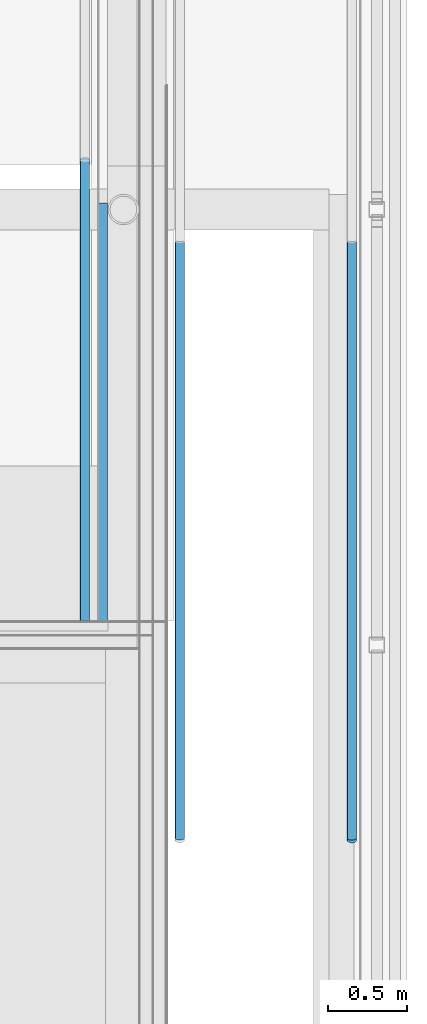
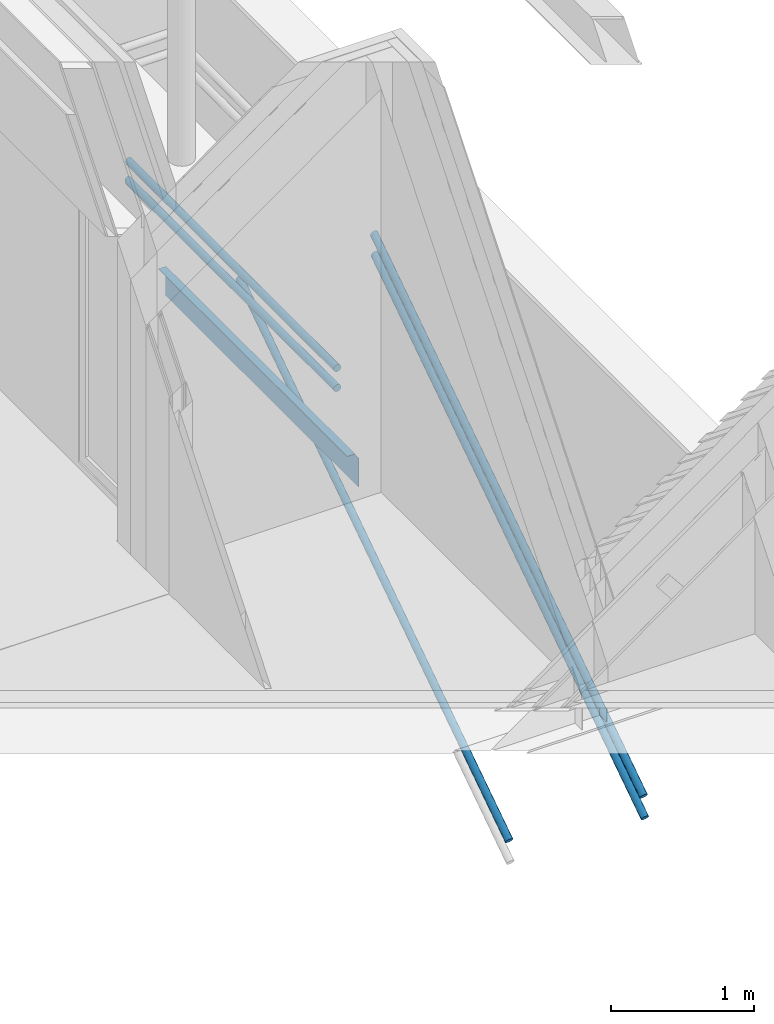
# One storey, part 24 of 137: 5 members, 1 beam, 2 elements without a shape of their own.
"""IFC2X3 building model written with IfcOpenShell, lengths in millimetres."""

from ifc_helpers import new_model, entity, si_unit, converted_unit, derived_unit, money_unit, direction, frame, origin_with_axes, place, context, subcontext, project, spatial, faceted_brep, material, type_object, element, aggregate, save


model = new_model("IFC2X3")

# Units and contexts
model_context = context("Model", 3, precision=0.01, world=origin_with_axes(), true_north=direction((0.0, 1.0)))
body_context = subcontext(model_context, "Body", "Model", "MODEL_VIEW")
ifc_project = project(units=[si_unit("LENGTHUNIT", "METRE", prefix="MILLI"), si_unit("AREAUNIT", "SQUARE_METRE"), si_unit("VOLUMEUNIT", "CUBIC_METRE"), converted_unit("PLANEANGLEUNIT", "DEGREE", entity("IfcPlaneAngleMeasure", 0.0174532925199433), si_unit("PLANEANGLEUNIT", "RADIAN"), dimensions=[0, 0, 0, 0, 0, 0, 0]), money_unit("EUR"), converted_unit("TIMEUNIT", "Year", entity("IfcTimeMeasure", 31556926.0), si_unit("TIMEUNIT", "SECOND"), dimensions=[0, 0, 1, 0, 0, 0, 0]), si_unit("MASSUNIT", "GRAM", prefix="KILO"), si_unit("THERMODYNAMICTEMPERATUREUNIT", "DEGREE_CELSIUS"), si_unit("LUMINOUSINTENSITYUNIT", "LUMEN"), si_unit("ENERGYUNIT", "JOULE", prefix="MEGA"), derived_unit("THERMALCONDUCTANCEUNIT", [(si_unit("POWERUNIT", "WATT"), 1), (si_unit("LENGTHUNIT", "METRE"), -1), (si_unit("THERMODYNAMICTEMPERATUREUNIT", "KELVIN"), -1)]), derived_unit("SPECIFICHEATCAPACITYUNIT", [(si_unit("ENERGYUNIT", "JOULE"), 1), (si_unit("MASSUNIT", "GRAM", prefix="KILO"), -1), (si_unit("THERMODYNAMICTEMPERATUREUNIT", "KELVIN"), -1)]), derived_unit("MASSDENSITYUNIT", [(si_unit("MASSUNIT", "GRAM", prefix="KILO"), 1), (si_unit("VOLUMEUNIT", "CUBIC_METRE"), -1)])], contexts=[model_context])

# Site, building, storey
site_placement = place(None, origin_with_axes())
site = spatial("IfcSite", under=ifc_project, at=site_placement, Name="Site", CompositionType="ELEMENT")
building_placement = place(site_placement, origin_with_axes())
building = spatial("IfcBuilding", under=site, at=building_placement, Name="Naam gebouw", CompositionType="ELEMENT")
storey_placement = place(building_placement, frame((0.0, 0.0, 3960.0), z_axis=(0.0, 0.0, 1.0), x_axis=(1.0, 0.0, 0.0)))
storey = spatial("IfcBuildingStorey", under=building, at=storey_placement, Name="1e verdieping", CompositionType="ELEMENT", Elevation=3960.0)

# Railing, members
railing_type = type_object("IfcRailingType", Name="Railing Type", PredefinedType="NOTDEFINED")
railing_1_placement = place(storey_placement, frame((29909.99996519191, 18712.73639114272, -3419.999937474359), z_axis=(0.0, 0.0, 1.0), x_axis=(1.0, 0.0, 0.0)))
railing_1 = element("IfcRailing", 1, at=railing_1_placement, inside=storey, type_object=railing_type, Name="34_Reling-x", PredefinedType="NOTDEFINED")
ifc_material_1 = material(Name="Metaal - RVS")
member_type = type_object("IfcMemberType", Name="IfcMember", PredefinedType="USERDEFINED")
member_1_placement = place(railing_1_placement, frame((-67.99996519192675, 1520.000006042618, 832.9179606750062), z_axis=(0.0, 0.0, 1.0), x_axis=(1.0, 0.0, 0.0)))
member_1 = element("IfcMember", 2, at=member_1_placement, type_object=member_type, material=ifc_material_1, Name="h3 Staal legeringen_", context=body_context, shape_type="Brep", body=[
    faceted_brep([(-30.00000000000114, -1873.358994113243, 42.12053049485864), (-29.54423259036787, -1876.248674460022, 46.45505101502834), (-29.54423259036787, 1897.505975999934, 2562.291484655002), (-30.00000000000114, 1899.083269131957, 2557.082039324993), (-29.54423259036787, -1870.469313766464, 37.7860099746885), (-28.19077862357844, -1867.667434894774, 33.58319166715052), (-25.98076211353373, -1865.038491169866, 29.63977607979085), (-22.98133329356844, -1862.662361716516, 26.07558189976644), (-19.28362829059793, -1860.611244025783, 22.99890536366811), (-15.00000000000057, -1858.947460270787, 20.5032297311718), (-10.26060429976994, -1857.721563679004, 18.66438484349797), (-5.209445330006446, -1856.970802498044, 17.53824307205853), (0.0, -1856.717988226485, 17.15902166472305), (5.209445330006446, -1856.970802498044, 17.53824307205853), (10.26060429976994, -1857.721563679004, 18.66438484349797), (15.00000000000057, -1858.947460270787, 20.5032297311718), (19.28362829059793, -1860.611244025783, 22.99890536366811), (22.98133329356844, -1862.662361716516, 26.07558189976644), (25.98076211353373, -1865.038491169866, 29.63977607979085), (28.19077862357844, -1867.667434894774, 33.58319166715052), (29.54423259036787, -1870.469313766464, 37.7860099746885), (30.00000000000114, -1873.358994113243, 42.12053049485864), (29.54423259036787, -1876.248674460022, 46.45505101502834), (28.19077862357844, -1879.050553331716, 50.65786932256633), (25.98076211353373, -1881.679497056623, 54.60128490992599), (22.98133329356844, -1884.055626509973, 58.16547908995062), (19.28362829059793, -1886.106744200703, 61.24215562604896), (15.00000000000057, -1887.770527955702, 63.73783125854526), (10.26060429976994, -1888.996424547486, 65.57667614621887), (5.209445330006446, -1889.747185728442, 66.70281791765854), (0.0, -1890.0, 67.08203932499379), (-5.209445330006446, -1889.747185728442, 66.70281791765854), (-10.26060429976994, -1888.996424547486, 65.57667614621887), (-15.00000000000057, -1887.770527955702, 63.73783125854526), (-19.28362829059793, -1886.106744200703, 61.24215562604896), (-22.98133329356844, -1884.055626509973, 58.16547908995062), (-25.98076211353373, -1881.679497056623, 54.60128490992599), (-28.19077862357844, -1879.050553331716, 50.65786932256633), (-28.19077862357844, 1895.976608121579, 2567.342643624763), (-25.98076211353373, 1894.541634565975, 2572.082039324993), (-22.98133329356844, 1893.244656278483, 2576.36566761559), (-19.28362829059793, 1892.125081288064, 2580.063372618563), (-15.00000000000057, 1891.216927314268, 2583.062801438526), (-10.26060429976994, 1890.547788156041, 2585.272817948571), (-5.209445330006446, 1890.137995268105, 2586.626271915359), (0.0, 1889.999999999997, 2587.082039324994), (5.209445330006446, 1890.137995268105, 2586.626271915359), (10.26060429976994, 1890.547788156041, 2585.272817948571), (15.00000000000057, 1891.216927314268, 2583.062801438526), (19.28362829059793, 1892.125081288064, 2580.063372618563), (22.98133329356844, 1893.244656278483, 2576.36566761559), (25.98076211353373, 1894.541634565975, 2572.082039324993), (28.19077862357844, 1895.976608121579, 2567.342643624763), (29.54423259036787, 1897.505975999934, 2562.291484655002), (30.00000000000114, 1899.083269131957, 2557.082039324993), (29.54423259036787, 1900.66056226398, 2551.872593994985), (28.19077862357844, 1902.189930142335, 2546.821435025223), (25.98076211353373, 1903.624903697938, 2542.082039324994), (22.98133329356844, 1904.92188198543, 2537.798411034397), (19.28362829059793, 1906.041456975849, 2534.100706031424), (15.00000000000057, 1906.949610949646, 2531.10127721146), (10.26060429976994, 1907.618750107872, 2528.891260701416), (5.209445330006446, 1908.028542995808, 2527.537806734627), (0.0, 1908.166538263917, 2527.082039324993), (-5.209445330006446, 1908.028542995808, 2527.537806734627), (-10.26060429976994, 1907.618750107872, 2528.891260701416), (-15.00000000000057, 1906.949610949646, 2531.10127721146), (-19.28362829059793, 1906.041456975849, 2534.100706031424), (-22.98133329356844, 1904.92188198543, 2537.798411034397), (-25.98076211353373, 1903.624903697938, 2542.082039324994), (-28.19077862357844, 1902.189930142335, 2546.821435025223), (-29.54423259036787, 1900.66056226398, 2551.872593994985)], [[[0, 1, 2, 3]], [[0, 4, 5, 6, 7, 8, 9, 10, 11, 12, 13, 14, 15, 16, 17, 18, 19, 20, 21, 22, 23, 24, 25, 26, 27, 28, 29, 30, 31, 32, 33, 34, 35, 36, 37, 1]], [[1, 37, 38, 2]], [[3, 2, 38, 39, 40, 41, 42, 43, 44, 45, 46, 47, 48, 49, 50, 51, 52, 53, 54, 55, 56, 57, 58, 59, 60, 61, 62, 63, 64, 65, 66, 67, 68, 69, 70, 71]], [[4, 0, 3, 71]], [[5, 4, 71, 70]], [[6, 5, 70, 69]], [[7, 6, 69, 68]], [[8, 7, 68, 67]], [[9, 8, 67, 66]], [[10, 9, 66, 65]], [[11, 10, 65, 64]], [[12, 11, 64, 63]], [[13, 12, 63, 62]], [[14, 13, 62, 61]], [[15, 14, 61, 60]], [[16, 15, 60, 59]], [[17, 16, 59, 58]], [[18, 17, 58, 57]], [[19, 18, 57, 56]], [[20, 19, 56, 55]], [[21, 20, 55, 54]], [[22, 21, 54, 53]], [[23, 22, 53, 52]], [[24, 23, 52, 51]], [[25, 24, 51, 50]], [[26, 25, 50, 49]], [[27, 26, 49, 48]], [[28, 27, 48, 47]], [[29, 28, 47, 46]], [[30, 29, 46, 45]], [[31, 30, 45, 44]], [[32, 31, 44, 43]], [[33, 32, 43, 42]], [[34, 33, 42, 41]], [[35, 34, 41, 40]], [[36, 35, 40, 39]], [[37, 36, 39, 38]]]),
])
member_2_placement = place(railing_1_placement, frame((-67.99996519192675, 1520.000006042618, 657.5735931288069), z_axis=(0.0, 0.0, 1.0), x_axis=(1.0, 0.0, 0.0)))
member_2 = element("IfcMember", 3, at=member_2_placement, type_object=member_type, material=ifc_material_1, Name="h3 Staal legeringen_Regel-x", context=body_context, shape_type="Brep", body=[
    faceted_brep([(-30.00000000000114, -1890.0, 42.42640687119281), (-29.54423259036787, -1892.88968034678, 46.76092739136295), (-29.54423259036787, 1888.422706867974, 2567.635852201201), (-30.00000000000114, 1889.999999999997, 2562.426406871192), (-29.54423259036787, -1887.110319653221, 38.09188635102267), (-28.19077862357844, -1884.308440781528, 33.88906804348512), (-25.98076211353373, -1881.679497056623, 29.94565245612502), (-22.98133329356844, -1879.303367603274, 26.38145827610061), (-19.28362829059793, -1877.252249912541, 23.30478174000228), (-15.00000000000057, -1875.588466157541, 20.80910610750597), (-10.26060429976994, -1874.362569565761, 18.97026121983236), (-5.209445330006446, -1873.611808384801, 17.84411944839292), (0.0, -1873.358994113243, 17.46489804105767), (5.209445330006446, -1873.611808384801, 17.84411944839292), (10.26060429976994, -1874.362569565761, 18.97026121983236), (15.00000000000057, -1875.588466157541, 20.80910610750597), (19.28362829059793, -1877.252249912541, 23.30478174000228), (22.98133329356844, -1879.303367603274, 26.38145827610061), (25.98076211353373, -1881.679497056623, 29.94565245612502), (28.19077862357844, -1884.308440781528, 33.88906804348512), (29.54423259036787, -1887.110319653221, 38.09188635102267), (30.00000000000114, -1890.0, 42.42640687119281), (29.54423259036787, -1892.88968034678, 46.76092739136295), (28.19077862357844, -1895.691559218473, 50.9637456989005), (25.98076211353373, -1898.320502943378, 54.90716128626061), (22.98133329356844, -1900.696632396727, 58.47135546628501), (19.28362829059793, -1902.74775008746, 61.54803200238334), (15.00000000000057, -1904.41153384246, 64.04370763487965), (10.26060429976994, -1905.63743043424, 65.88255252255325), (5.209445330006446, -1906.3881916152, 67.0086942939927), (0.0, -1906.641005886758, 67.38791570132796), (-5.209445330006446, -1906.3881916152, 67.0086942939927), (-10.26060429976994, -1905.63743043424, 65.88255252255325), (-15.00000000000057, -1904.41153384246, 64.04370763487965), (-19.28362829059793, -1902.74775008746, 61.54803200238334), (-22.98133329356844, -1900.696632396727, 58.47135546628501), (-25.98076211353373, -1898.320502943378, 54.90716128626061), (-28.19077862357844, -1895.691559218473, 50.9637456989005), (-28.19077862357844, 1886.893338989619, 2572.687011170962), (-25.98076211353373, 1885.458365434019, 2577.426406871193), (-22.98133329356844, 1884.161387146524, 2581.710035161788), (-19.28362829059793, 1883.041812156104, 2585.407740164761), (-15.00000000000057, 1882.133658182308, 2588.407168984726), (-10.26060429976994, 1881.464519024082, 2590.61718549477), (-5.209445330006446, 1881.054726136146, 2591.970639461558), (0.0, 1880.916730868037, 2592.426406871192), (5.209445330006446, 1881.054726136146, 2591.970639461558), (10.26060429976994, 1881.464519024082, 2590.61718549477), (15.00000000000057, 1882.133658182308, 2588.407168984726), (19.28362829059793, 1883.041812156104, 2585.407740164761), (22.98133329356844, 1884.161387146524, 2581.710035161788), (25.98076211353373, 1885.458365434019, 2577.426406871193), (28.19077862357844, 1886.893338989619, 2572.687011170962), (29.54423259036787, 1888.422706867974, 2567.635852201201), (30.00000000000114, 1889.999999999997, 2562.426406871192), (29.54423259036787, 1891.57729313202, 2557.216961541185), (28.19077862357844, 1893.106661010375, 2552.165802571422), (25.98076211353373, 1894.541634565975, 2547.426406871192), (22.98133329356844, 1895.838612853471, 2543.142778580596), (19.28362829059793, 1896.958187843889, 2539.445073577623), (15.00000000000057, 1897.866341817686, 2536.445644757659), (10.26060429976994, 1898.535480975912, 2534.235628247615), (5.209445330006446, 1898.945273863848, 2532.882174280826), (0.0, 1899.083269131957, 2532.426406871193), (-5.209445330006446, 1898.945273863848, 2532.882174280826), (-10.26060429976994, 1898.535480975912, 2534.235628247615), (-15.00000000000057, 1897.866341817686, 2536.445644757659), (-19.28362829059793, 1896.958187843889, 2539.445073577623), (-22.98133329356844, 1895.838612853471, 2543.142778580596), (-25.98076211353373, 1894.541634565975, 2547.426406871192), (-28.19077862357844, 1893.106661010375, 2552.165802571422), (-29.54423259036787, 1891.57729313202, 2557.216961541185)], [[[0, 1, 2, 3]], [[0, 4, 5, 6, 7, 8, 9, 10, 11, 12, 13, 14, 15, 16, 17, 18, 19, 20, 21, 22, 23, 24, 25, 26, 27, 28, 29, 30, 31, 32, 33, 34, 35, 36, 37, 1]], [[1, 37, 38, 2]], [[3, 2, 38, 39, 40, 41, 42, 43, 44, 45, 46, 47, 48, 49, 50, 51, 52, 53, 54, 55, 56, 57, 58, 59, 60, 61, 62, 63, 64, 65, 66, 67, 68, 69, 70, 71]], [[4, 0, 3, 71]], [[5, 4, 71, 70]], [[6, 5, 70, 69]], [[7, 6, 69, 68]], [[8, 7, 68, 67]], [[9, 8, 67, 66]], [[10, 9, 66, 65]], [[11, 10, 65, 64]], [[12, 11, 64, 63]], [[13, 12, 63, 62]], [[14, 13, 62, 61]], [[15, 14, 61, 60]], [[16, 15, 60, 59]], [[17, 16, 59, 58]], [[18, 17, 58, 57]], [[19, 18, 57, 56]], [[20, 19, 56, 55]], [[21, 20, 55, 54]], [[22, 21, 54, 53]], [[23, 22, 53, 52]], [[24, 23, 52, 51]], [[25, 24, 51, 50]], [[26, 25, 50, 49]], [[27, 26, 49, 48]], [[28, 27, 48, 47]], [[29, 28, 47, 46]], [[30, 29, 46, 45]], [[31, 30, 45, 44]], [[32, 31, 44, 43]], [[33, 32, 43, 42]], [[34, 33, 42, 41]], [[35, 34, 41, 40]], [[36, 35, 40, 39]], [[37, 36, 39, 38]]]),
])
aggregate(railing_1, [member_1, member_2])

railing_2_placement = place(storey_placement, frame((28276.00002397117, 22221.00039272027, -3419.999916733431), z_axis=(0.0, 0.0, 1.0), x_axis=(1.0, 0.0, 0.0)))
railing_2 = element("IfcRailing", 4, at=railing_2_placement, inside=storey, type_object=railing_type, Name="34_Reling-x", PredefinedType="NOTDEFINED")
member_3_placement = place(railing_2_placement, frame((-119.0000000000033, -1035.51209442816, 4252.917939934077), z_axis=(0.0, 0.0, 1.0), x_axis=(1.0, 0.0, 0.0)))
member_3 = element("IfcMember", 5, at=member_3_placement, type_object=member_type, material=ifc_material_1, Name="h3 Staal legeringen_", context=body_context, shape_type="Brep", body=[
    faceted_brep([(-30.00000000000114, -1459.487905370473, 37.08203932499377), (-29.54423259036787, -1459.487905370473, 42.29148465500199), (-29.54423259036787, 1450.486884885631, 42.29148465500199), (-30.00000000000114, 1448.595425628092, 37.08203932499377), (-29.54423259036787, -1459.487905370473, 31.87259399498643), (-28.19077862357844, -1459.487905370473, 26.82143502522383), (-25.98076211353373, -1459.487905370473, 22.08203932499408), (-22.98133329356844, -1459.487905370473, 17.79841103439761), (-19.28362829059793, -1459.487905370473, 14.10070603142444), (-15.00000000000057, -1459.487905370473, 11.10127721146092), (-10.26060429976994, -1459.487905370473, 8.891260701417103), (-5.209445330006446, -1459.487905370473, 7.537806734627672), (0.0, -1459.487905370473, 7.082039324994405), (5.209445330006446, -1459.487905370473, 7.537806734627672), (10.26060429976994, -1459.487905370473, 8.891260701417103), (15.00000000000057, -1459.487905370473, 11.10127721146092), (19.28362829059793, -1459.487905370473, 14.10070603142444), (22.98133329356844, -1459.487905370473, 17.79841103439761), (25.98076211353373, -1459.487905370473, 22.08203932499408), (28.19077862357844, -1459.487905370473, 26.82143502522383), (29.54423259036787, -1459.487905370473, 31.87259399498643), (30.00000000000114, -1459.487905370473, 37.08203932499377), (29.54423259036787, -1459.487905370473, 42.29148465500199), (28.19077862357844, -1459.487905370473, 47.3426436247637), (25.98076211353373, -1459.487905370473, 52.08203932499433), (22.98133329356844, -1459.487905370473, 56.36566761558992), (19.28362829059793, -1459.487905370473, 60.06337261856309), (15.00000000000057, -1459.487905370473, 63.06280143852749), (10.26060429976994, -1459.487905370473, 65.27281794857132), (5.209445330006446, -1459.487905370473, 66.62627191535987), (0.0, -1459.487905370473, 67.08203932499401), (-5.209445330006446, -1459.487905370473, 66.62627191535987), (-10.26060429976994, -1459.487905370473, 65.27281794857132), (-15.00000000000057, -1459.487905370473, 63.06280143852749), (-19.28362829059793, -1459.487905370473, 60.06337261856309), (-22.98133329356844, -1459.487905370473, 56.36566761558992), (-25.98076211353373, -1459.487905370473, 52.08203932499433), (-28.19077862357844, -1459.487905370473, 47.3426436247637), (-28.19077862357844, 1452.320873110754, 47.3426436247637), (-25.98076211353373, 1454.041665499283, 52.08203932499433), (-22.98133329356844, 1455.596976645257, 56.36566761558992), (-19.28362829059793, 1456.939549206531, 60.06337261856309), (-15.00000000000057, 1458.028589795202, 63.06280143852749), (-10.26060429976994, 1458.831008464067, 65.27281794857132), (-5.209445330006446, 1459.322424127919, 66.62627191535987), (0.0, 1459.487905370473, 67.08203932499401), (5.209445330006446, 1459.322424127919, 66.62627191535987), (10.26060429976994, 1458.831008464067, 65.27281794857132), (15.00000000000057, 1458.028589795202, 63.06280143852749), (19.28362829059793, 1456.939549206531, 60.06337261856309), (22.98133329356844, 1455.596976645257, 56.36566761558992), (25.98076211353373, 1454.041665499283, 52.08203932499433), (28.19077862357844, 1452.320873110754, 47.3426436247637), (29.54423259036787, 1450.486884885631, 42.29148465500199), (30.00000000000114, 1448.595425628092, 37.08203932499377), (29.54423259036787, 1446.703966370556, 31.87259399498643), (28.19077862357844, 1444.869978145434, 26.82143502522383), (25.98076211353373, 1443.149185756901, 22.08203932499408), (22.98133329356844, 1441.59387461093, 17.79841103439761), (19.28362829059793, 1440.251302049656, 14.10070603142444), (15.00000000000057, 1439.162261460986, 11.10127721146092), (10.26060429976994, 1438.359842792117, 8.891260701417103), (5.209445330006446, 1437.868427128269, 7.537806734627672), (0.0, 1437.702945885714, 7.082039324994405), (-5.209445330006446, 1437.868427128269, 7.537806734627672), (-10.26060429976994, 1438.359842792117, 8.891260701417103), (-15.00000000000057, 1439.162261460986, 11.10127721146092), (-19.28362829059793, 1440.251302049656, 14.10070603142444), (-22.98133329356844, 1441.59387461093, 17.79841103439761), (-25.98076211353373, 1443.149185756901, 22.08203932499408), (-28.19077862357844, 1444.869978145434, 26.82143502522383), (-29.54423259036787, 1446.703966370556, 31.87259399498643)], [[[0, 1, 2, 3]], [[0, 4, 5, 6, 7, 8, 9, 10, 11, 12, 13, 14, 15, 16, 17, 18, 19, 20, 21, 22, 23, 24, 25, 26, 27, 28, 29, 30, 31, 32, 33, 34, 35, 36, 37, 1]], [[1, 37, 38, 2]], [[3, 2, 38, 39, 40, 41, 42, 43, 44, 45, 46, 47, 48, 49, 50, 51, 52, 53, 54, 55, 56, 57, 58, 59, 60, 61, 62, 63, 64, 65, 66, 67, 68, 69, 70, 71]], [[4, 0, 3, 71]], [[5, 4, 71, 70]], [[6, 5, 70, 69]], [[7, 6, 69, 68]], [[8, 7, 68, 67]], [[9, 8, 67, 66]], [[10, 9, 66, 65]], [[11, 10, 65, 64]], [[12, 11, 64, 63]], [[13, 12, 63, 62]], [[14, 13, 62, 61]], [[15, 14, 61, 60]], [[16, 15, 60, 59]], [[17, 16, 59, 58]], [[18, 17, 58, 57]], [[19, 18, 57, 56]], [[20, 19, 56, 55]], [[21, 20, 55, 54]], [[22, 21, 54, 53]], [[23, 22, 53, 52]], [[24, 23, 52, 51]], [[25, 24, 51, 50]], [[26, 25, 50, 49]], [[27, 26, 49, 48]], [[28, 27, 48, 47]], [[29, 28, 47, 46]], [[30, 29, 46, 45]], [[31, 30, 45, 44]], [[32, 31, 44, 43]], [[33, 32, 43, 42]], [[34, 33, 42, 41]], [[35, 34, 41, 40]], [[36, 35, 40, 39]], [[37, 36, 39, 38]]]),
])
member_4_placement = place(railing_2_placement, frame((-119.0000000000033, -1035.51209442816, 4077.573572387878), z_axis=(0.0, 0.0, 1.0), x_axis=(1.0, 0.0, 0.0)))
member_4 = element("IfcMember", 6, at=member_4_placement, type_object=member_type, material=ifc_material_1, Name="h3 Staal legeringen_Regel-x", context=body_context, shape_type="Brep", body=[
    faceted_brep([(-30.00000000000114, -1459.487905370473, 42.42640687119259), (-29.54423259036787, -1459.487905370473, 47.63585220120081), (-29.54423259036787, 1461.379364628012, 47.63585220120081), (-30.00000000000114, 1459.487905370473, 42.42640687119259), (-29.54423259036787, -1459.487905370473, 37.21696154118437), (-28.19077862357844, -1459.487905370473, 32.16580257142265), (-25.98076211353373, -1459.487905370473, 27.42640687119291), (-22.98133329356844, -1459.487905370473, 23.14277858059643), (-19.28362829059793, -1459.487905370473, 19.44507357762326), (-15.00000000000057, -1459.487905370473, 16.44564475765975), (-10.26060429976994, -1459.487905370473, 14.23562824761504), (-5.209445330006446, -1459.487905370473, 12.8821742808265), (0.0, -1459.487905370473, 12.42640687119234), (5.209445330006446, -1459.487905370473, 12.8821742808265), (10.26060429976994, -1459.487905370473, 14.23562824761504), (15.00000000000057, -1459.487905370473, 16.44564475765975), (19.28362829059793, -1459.487905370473, 19.44507357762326), (22.98133329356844, -1459.487905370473, 23.14277858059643), (25.98076211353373, -1459.487905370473, 27.42640687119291), (28.19077862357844, -1459.487905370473, 32.16580257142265), (29.54423259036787, -1459.487905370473, 37.21696154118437), (30.00000000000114, -1459.487905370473, 42.42640687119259), (29.54423259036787, -1459.487905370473, 47.63585220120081), (28.19077862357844, -1459.487905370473, 52.68701117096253), (25.98076211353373, -1459.487905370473, 57.42640687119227), (22.98133329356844, -1459.487905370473, 61.71003516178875), (19.28362829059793, -1459.487905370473, 65.40774016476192), (15.00000000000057, -1459.487905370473, 68.40716898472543), (10.26060429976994, -1459.487905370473, 70.61718549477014), (5.209445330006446, -1459.487905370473, 71.97063946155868), (0.0, -1459.487905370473, 72.42640687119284), (-5.209445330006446, -1459.487905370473, 71.97063946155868), (-10.26060429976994, -1459.487905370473, 70.61718549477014), (-15.00000000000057, -1459.487905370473, 68.40716898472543), (-19.28362829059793, -1459.487905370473, 65.40774016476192), (-22.98133329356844, -1459.487905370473, 61.71003516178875), (-25.98076211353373, -1459.487905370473, 57.42640687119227), (-28.19077862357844, -1459.487905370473, 52.68701117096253), (-28.19077862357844, 1463.213352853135, 52.68701117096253), (-25.98076211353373, 1464.934145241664, 57.42640687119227), (-22.98133329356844, 1466.489456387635, 61.71003516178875), (-19.28362829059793, 1467.832028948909, 65.40774016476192), (-15.00000000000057, 1468.921069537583, 68.40716898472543), (-10.26060429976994, 1469.723488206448, 70.61718549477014), (-5.209445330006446, 1470.214903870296, 71.97063946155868), (0.0, 1470.380385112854, 72.42640687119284), (5.209445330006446, 1470.214903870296, 71.97063946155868), (10.26060429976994, 1469.723488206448, 70.61718549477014), (15.00000000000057, 1468.921069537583, 68.40716898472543), (19.28362829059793, 1467.832028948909, 65.40774016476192), (22.98133329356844, 1466.489456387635, 61.71003516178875), (25.98076211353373, 1464.934145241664, 57.42640687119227), (28.19077862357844, 1463.213352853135, 52.68701117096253), (29.54423259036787, 1461.379364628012, 47.63585220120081), (30.00000000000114, 1459.487905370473, 42.42640687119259), (29.54423259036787, 1457.596446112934, 37.21696154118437), (28.19077862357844, 1455.762457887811, 32.16580257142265), (25.98076211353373, 1454.041665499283, 27.42640687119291), (22.98133329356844, 1452.486354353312, 23.14277858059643), (19.28362829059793, 1451.143781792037, 19.44507357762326), (15.00000000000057, 1450.054741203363, 16.44564475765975), (10.26060429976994, 1449.252322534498, 14.23562824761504), (5.209445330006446, 1448.76090687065, 12.8821742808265), (0.0, 1448.595425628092, 12.42640687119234), (-5.209445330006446, 1448.76090687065, 12.8821742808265), (-10.26060429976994, 1449.252322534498, 14.23562824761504), (-15.00000000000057, 1450.054741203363, 16.44564475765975), (-19.28362829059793, 1451.143781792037, 19.44507357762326), (-22.98133329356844, 1452.486354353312, 23.14277858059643), (-25.98076211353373, 1454.041665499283, 27.42640687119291), (-28.19077862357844, 1455.762457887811, 32.16580257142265), (-29.54423259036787, 1457.596446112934, 37.21696154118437)], [[[0, 1, 2, 3]], [[0, 4, 5, 6, 7, 8, 9, 10, 11, 12, 13, 14, 15, 16, 17, 18, 19, 20, 21, 22, 23, 24, 25, 26, 27, 28, 29, 30, 31, 32, 33, 34, 35, 36, 37, 1]], [[1, 37, 38, 2]], [[3, 2, 38, 39, 40, 41, 42, 43, 44, 45, 46, 47, 48, 49, 50, 51, 52, 53, 54, 55, 56, 57, 58, 59, 60, 61, 62, 63, 64, 65, 66, 67, 68, 69, 70, 71]], [[4, 0, 3, 71]], [[5, 4, 71, 70]], [[6, 5, 70, 69]], [[7, 6, 69, 68]], [[8, 7, 68, 67]], [[9, 8, 67, 66]], [[10, 9, 66, 65]], [[11, 10, 65, 64]], [[12, 11, 64, 63]], [[13, 12, 63, 62]], [[14, 13, 62, 61]], [[15, 14, 61, 60]], [[16, 15, 60, 59]], [[17, 16, 59, 58]], [[18, 17, 58, 57]], [[19, 18, 57, 56]], [[20, 19, 56, 55]], [[21, 20, 55, 54]], [[22, 21, 54, 53]], [[23, 22, 53, 52]], [[24, 23, 52, 51]], [[25, 24, 51, 50]], [[26, 25, 50, 49]], [[27, 26, 49, 48]], [[28, 27, 48, 47]], [[29, 28, 47, 46]], [[30, 29, 46, 45]], [[31, 30, 45, 44]], [[32, 31, 44, 43]], [[33, 32, 43, 42]], [[34, 33, 42, 41]], [[35, 34, 41, 40]], [[36, 35, 40, 39]], [[37, 36, 39, 38]]]),
])
member_5_placement = place(railing_2_placement, frame((479.9999999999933, -1988.263997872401, 832.9179606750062), z_axis=(0.0, 0.0, 1.0), x_axis=(1.0, 0.0, 0.0)))
member_5 = element("IfcMember", 7, at=member_5_placement, type_object=member_type, material=ifc_material_1, Name="h3 Staal legeringen_", context=body_context, shape_type="Brep", body=[
    faceted_brep([(30.00000000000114, 1899.083269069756, 2557.082018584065), (29.54423259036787, 1897.505975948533, 2562.291463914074), (29.54423259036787, -1876.248674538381, 46.45505096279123), (30.00000000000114, -1873.358994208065, 42.12053043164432), (29.54423259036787, 1900.660562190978, 2551.872573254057), (28.19077862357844, 1902.18993005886, 2546.821414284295), (25.98076211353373, 1903.624903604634, 2542.082018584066), (22.98133329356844, 1904.921881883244, 2537.798390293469), (19.28362829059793, 1906.041456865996, 2534.100685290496), (15.00000000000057, 1906.949610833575, 2531.101256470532), (10.26060429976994, 1907.618749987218, 2528.891239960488), (5.209445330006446, 1908.028542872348, 2527.537785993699), (0.0, 1908.166538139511, 2527.082018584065), (-5.209445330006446, 1908.028542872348, 2527.537785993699), (-10.26060429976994, 1907.618749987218, 2528.891239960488), (-15.00000000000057, 1906.949610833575, 2531.101256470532), (-19.28362829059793, 1906.041456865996, 2534.100685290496), (-22.98133329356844, 1904.921881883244, 2537.798390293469), (-25.98076211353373, 1903.624903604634, 2542.082018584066), (-28.19077862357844, 1902.18993005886, 2546.821414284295), (-29.54423259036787, 1900.660562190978, 2551.872573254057), (-30.00000000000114, 1899.083269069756, 2557.082018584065), (-29.54423259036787, 1897.505975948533, 2562.291463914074), (-28.19077862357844, 1895.976608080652, 2567.342622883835), (-25.98076211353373, 1894.541634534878, 2572.082018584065), (-22.98133329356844, 1893.244656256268, 2576.365646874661), (-19.28362829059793, 1892.125081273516, 2580.063351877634), (-15.00000000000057, 1891.216927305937, 2583.062780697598), (-10.26060429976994, 1890.547788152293, 2585.272797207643), (-5.209445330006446, 1890.137995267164, 2586.626251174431), (0.0, 1890.0, 2587.082018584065), (5.209445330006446, 1890.137995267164, 2586.626251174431), (10.26060429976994, 1890.547788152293, 2585.272797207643), (15.00000000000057, 1891.216927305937, 2583.062780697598), (19.28362829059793, 1892.125081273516, 2580.063351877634), (22.98133329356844, 1893.244656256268, 2576.365646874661), (25.98076211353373, 1894.541634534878, 2572.082018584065), (28.19077862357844, 1895.976608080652, 2567.342622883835), (28.19077862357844, -1879.050553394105, 50.65786928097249), (25.98076211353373, -1881.679497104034, 54.60128487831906), (22.98133329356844, -1884.055626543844, 58.16547906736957), (19.28362829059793, -1886.106744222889, 61.24215561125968), (15.00000000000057, -1887.770527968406, 63.73783125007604), (10.26060429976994, -1888.996424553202, 65.57667614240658), (5.209445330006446, -1889.747185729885, 66.70281791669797), (0.0, -1890.0, 67.08203932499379), (-5.209445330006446, -1889.747185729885, 66.70281791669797), (-10.26060429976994, -1888.996424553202, 65.57667614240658), (-15.00000000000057, -1887.770527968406, 63.73783125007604), (-19.28362829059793, -1886.106744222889, 61.24215561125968), (-22.98133329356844, -1884.055626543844, 58.16547906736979), (-25.98076211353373, -1881.679497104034, 54.60128487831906), (-28.19077862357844, -1879.050553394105, 50.65786928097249), (-29.54423259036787, -1876.248674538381, 46.45505096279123), (-30.00000000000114, -1873.358994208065, 42.12053043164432), (-29.54423259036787, -1870.469313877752, 37.78600990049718), (-28.19077862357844, -1867.667435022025, 33.58319158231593), (-25.98076211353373, -1865.038491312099, 29.63977598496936), (-22.98133329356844, -1862.662361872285, 26.07558179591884), (-19.28362829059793, -1860.61124419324, 22.99890525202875), (-15.00000000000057, -1858.947460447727, 20.50322961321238), (-10.26060429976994, -1857.721563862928, 18.66438472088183), (-5.209445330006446, -1856.970802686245, 17.53824294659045), (0.0, -1856.717988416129, 17.15902153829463), (5.209445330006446, -1856.970802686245, 17.53824294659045), (10.26060429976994, -1857.721563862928, 18.66438472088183), (15.00000000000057, -1858.947460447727, 20.50322961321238), (19.28362829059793, -1860.61124419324, 22.99890525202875), (22.98133329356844, -1862.662361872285, 26.07558179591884), (25.98076211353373, -1865.038491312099, 29.63977598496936), (28.19077862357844, -1867.667435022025, 33.58319158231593), (29.54423259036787, -1870.469313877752, 37.78600990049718)], [[[0, 1, 2, 3]], [[0, 4, 5, 6, 7, 8, 9, 10, 11, 12, 13, 14, 15, 16, 17, 18, 19, 20, 21, 22, 23, 24, 25, 26, 27, 28, 29, 30, 31, 32, 33, 34, 35, 36, 37, 1]], [[1, 37, 38, 2]], [[3, 2, 38, 39, 40, 41, 42, 43, 44, 45, 46, 47, 48, 49, 50, 51, 52, 53, 54, 55, 56, 57, 58, 59, 60, 61, 62, 63, 64, 65, 66, 67, 68, 69, 70, 71]], [[4, 0, 3, 71]], [[5, 4, 71, 70]], [[6, 5, 70, 69]], [[7, 6, 69, 68]], [[8, 7, 68, 67]], [[9, 8, 67, 66]], [[10, 9, 66, 65]], [[11, 10, 65, 64]], [[12, 11, 64, 63]], [[13, 12, 63, 62]], [[14, 13, 62, 61]], [[15, 14, 61, 60]], [[16, 15, 60, 59]], [[17, 16, 59, 58]], [[18, 17, 58, 57]], [[19, 18, 57, 56]], [[20, 19, 56, 55]], [[21, 20, 55, 54]], [[22, 21, 54, 53]], [[23, 22, 53, 52]], [[24, 23, 52, 51]], [[25, 24, 51, 50]], [[26, 25, 50, 49]], [[27, 26, 49, 48]], [[28, 27, 48, 47]], [[29, 28, 47, 46]], [[30, 29, 46, 45]], [[31, 30, 45, 44]], [[32, 31, 44, 43]], [[33, 32, 43, 42]], [[34, 33, 42, 41]], [[35, 34, 41, 40]], [[36, 35, 40, 39]], [[37, 36, 39, 38]]]),
])
aggregate(railing_2, [member_3, member_4, member_5])

# Beam
ifc_material_2 = material(Name="47 waterdichte laag - bitumen")
beam_type = type_object("IfcBeamType", Name="41 Plint stucwerk 62 x 250", PredefinedType="BEAM")
beam_placement = place(storey_placement, frame((28237.00002397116, 19726.00039292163, 89.99999999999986), z_axis=(0.0, 0.0, 1.0), x_axis=(1.0, 0.0, 0.0)))
element("IfcBeam", 8, at=beam_placement, inside=storey, type_object=beam_type, material=ifc_material_2, Name="g2- Gebakken klei_Regenwaterafvoer-x", ObjectType="BEAM", context=body_context, shape_type="Brep", body=[
    faceted_brep([(0.0, 2638.975810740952, 0.0), (0.0, 0.0, 0.0), (62.00000000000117, 0.0, 0.0), (62.00000000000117, 2638.975810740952, 0.0), (0.0, 2638.975810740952, -4.000000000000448), (0.0, 0.0, -4.000000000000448), (58.00000000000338, 0.0, -4.000000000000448), (62.00000000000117, 0.0, -4.000000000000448), (62.00000000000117, -58.00000000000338, -3.999999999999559), (62.00000000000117, -58.00000000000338, -250.0), (62.00000000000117, 2638.975810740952, -250.0), (58.00000000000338, 2638.975810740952, -250.0), (58.00000000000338, 2638.975810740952, -3.999999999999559), (58.00000000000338, -58.00000000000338, -3.999999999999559), (58.00000000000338, -58.00000000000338, -250.0)], [[[0, 1, 2, 3]], [[4, 5, 1, 0]], [[6, 7, 2, 1, 5]], [[7, 8, 9, 10, 3, 2]], [[11, 12, 4, 0, 3, 10]], [[12, 6, 5, 4]], [[13, 8, 7, 6]], [[14, 9, 8, 13]], [[10, 9, 14, 11]], [[14, 13, 6, 12, 11]]]),
])

save(model, "model.ifc")
